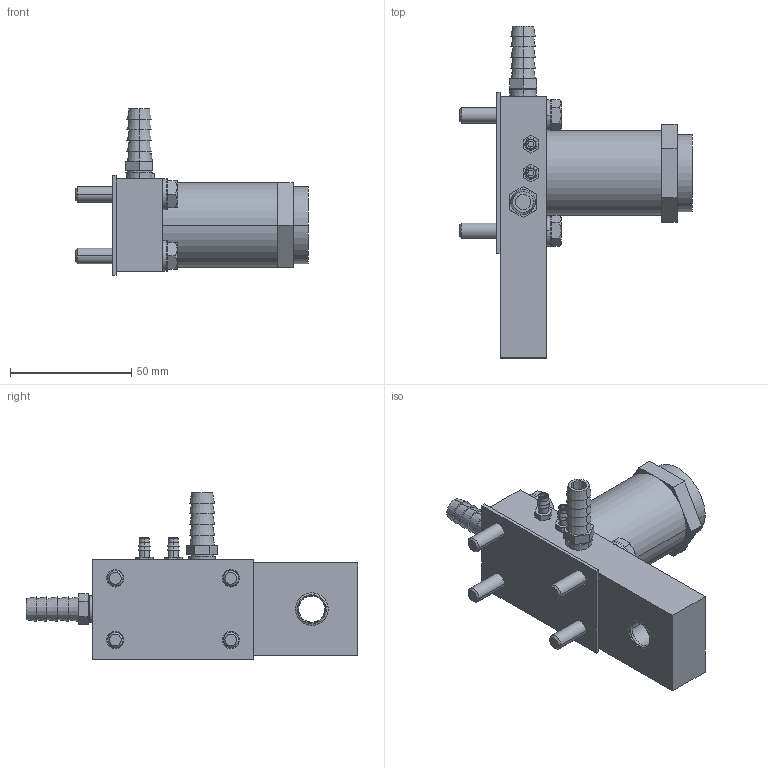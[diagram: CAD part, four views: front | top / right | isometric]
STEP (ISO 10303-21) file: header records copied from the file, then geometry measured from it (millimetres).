
FILE_DESCRIPTION((''),'2;1');
FILE_NAME('UJR3_ASM','2017-08-24T',('jennifer.elliott'),('CenterLine (Windsor) Ltd - Automation Components Division'),'PRO/ENGINEER BY PARAMETRIC TECHNOLOGY CORPORATION, 2015030','PRO/ENGINEER BY PARAMETRIC TECHNOLOGY CORPORATION, 2015030','');
FILE_SCHEMA(('AUTOMOTIVE_DESIGN { 1 0 10303 214 1 1 1 1 }'));
Length unit declared in the file: inch
Products named in the file (23): PRT0401; PRT0402; PRT0403; PRT0404; PRT0405; PRT0406; PRT0407; PRT0408; PRT0409; PRT0410; PRT0411; PRT0412; PRT0413; PRT0414; PRT0415; PRT0416; PRT0417; PRT0418; PRT0419; PRT0420; PRT0421; PRT0422; UJR3_ASM
Assembly tree (22 placements, depth 2):
  UJR3_ASM
    PRT0401
    PRT0402
    PRT0403
    PRT0404
    PRT0405
    PRT0406
    PRT0407
    PRT0408
    PRT0409
    PRT0410
    PRT0411
    PRT0412
    PRT0413
    PRT0414
    PRT0415
    PRT0416
    PRT0417
    PRT0418
    PRT0419
    PRT0420
    PRT0421
    PRT0422
Bounding box: 96.08 x 136.91 x 68.64 mm (x, y, z)
Volume: 144487.6 mm3; surface area: 48214.7 mm2
Topology: 22 solids, 22 shells, 308 faces, 660 edges, 424 vertices
Faces by surface type: plane 134, cylinder 94, cone 72, torus 8
Entity records: 10109 total; most frequent: CARTESIAN_POINT 1756, DIRECTION 1626, ORIENTED_EDGE 1320, AXIS2_PLACEMENT_3D 661, EDGE_CURVE 660, VERTEX_POINT 424, EDGE_LOOP 380, FACE_OUTER_BOUND 308
